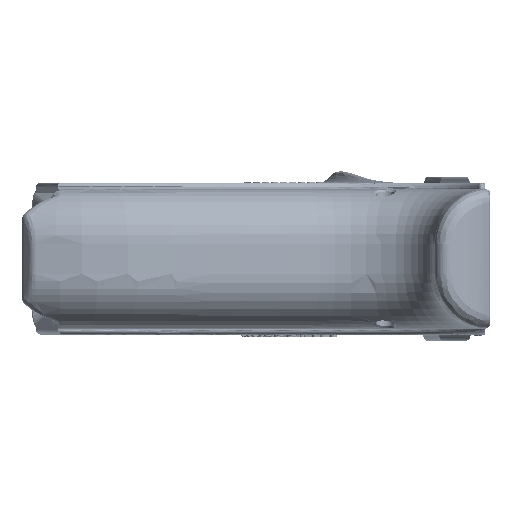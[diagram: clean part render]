
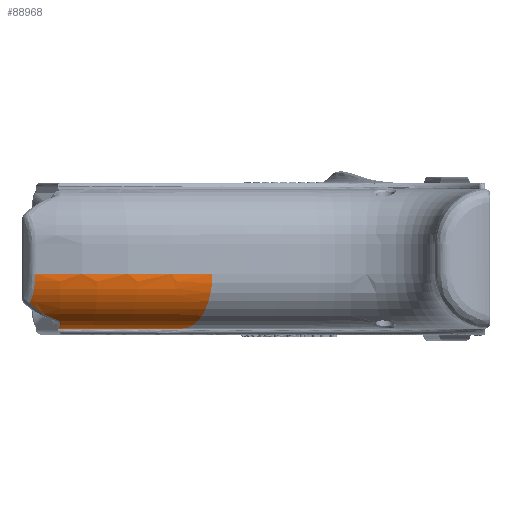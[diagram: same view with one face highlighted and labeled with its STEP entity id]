
A CAD part, left-side view. The second image highlights one B-rep face of the part: STEP entity #88968.
In plain terms, the highlighted toroidal (fillet/blend) face has major radius 35.645 mm and minor radius 9 mm.
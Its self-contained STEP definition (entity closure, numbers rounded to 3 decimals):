
#128=TOROIDAL_SURFACE('',#96641,35.645,9.);
#1682=ELLIPSE('',#96640,8.012,1.605);
#6449=CIRCLE('',#96061,44.645);
#6675=CIRCLE('',#96531,9.);
#6719=CIRCLE('',#96642,35.645);
#13895=FACE_OUTER_BOUND('',#20300,.T.);
#20300=EDGE_LOOP('',(#75057,#75058,#75059,#75060,#75061,#75062,#75063,#75064));
#34944=B_SPLINE_CURVE_WITH_KNOTS('',3,(#192211,#192212,#192213,#192214),
 .UNSPECIFIED.,.F.,.F.,(4,4),(0.,0.636),.UNSPECIFIED.);
#34945=B_SPLINE_CURVE_WITH_KNOTS('',3,(#192250,#192251,#192252,#192253,
#192254,#192255,#192256,#192257,#192258,#192259,#192260,#192261,#192262,
#192263,#192264,#192265,#192266,#192267,#192268,#192269,#192270,#192271),
 .UNSPECIFIED.,.F.,.F.,(4,2,2,2,2,2,2,2,2,2,4),(0.,0.191,0.25,
0.438,0.469,0.484,0.492,
0.5,0.575,0.813,1.),.UNSPECIFIED.);
#34947=B_SPLINE_CURVE_WITH_KNOTS('',3,(#192317,#192318,#192319,#192320,
#192321,#192322,#192323,#192324,#192325,#192326,#192327,#192328,#192329,
#192330,#192331,#192332,#192333,#192334,#192335,#192336),.UNSPECIFIED.,
 .F.,.F.,(4,2,2,2,2,2,2,2,2,4),(0.,0.214,0.426,0.5,
0.501,0.563,0.62,0.625,
0.889,1.),.UNSPECIFIED.);
#35014=B_SPLINE_CURVE_WITH_KNOTS('',3,(#195456,#195457,#195458,#195459,
#195460,#195461),.UNSPECIFIED.,.F.,.F.,(4,2,4),(1.133,1.17,
1.339),.UNSPECIFIED.);
#41469=VERTEX_POINT('',#185694);
#41479=VERTEX_POINT('',#186025);
#41539=VERTEX_POINT('',#186343);
#41801=VERTEX_POINT('',#191867);
#41809=VERTEX_POINT('',#192200);
#42034=VERTEX_POINT('',#193077);
#42148=VERTEX_POINT('',#195451);
#42149=VERTEX_POINT('',#195455);
#53405=EDGE_CURVE('',#41801,#41809,#34944,.T.);
#53406=EDGE_CURVE('',#41469,#41801,#34945,.T.);
#53408=EDGE_CURVE('',#41479,#41469,#34947,.T.);
#53410=EDGE_CURVE('',#41479,#41539,#6449,.T.);
#53658=EDGE_CURVE('',#42034,#41539,#6675,.T.);
#53859=EDGE_CURVE('',#41809,#42148,#1682,.T.);
#53860=EDGE_CURVE('',#42148,#42149,#35014,.T.);
#53861=EDGE_CURVE('',#42034,#42149,#6719,.T.);
#75057=ORIENTED_EDGE('',*,*,#53410,.F.);
#75058=ORIENTED_EDGE('',*,*,#53408,.T.);
#75059=ORIENTED_EDGE('',*,*,#53406,.T.);
#75060=ORIENTED_EDGE('',*,*,#53405,.T.);
#75061=ORIENTED_EDGE('',*,*,#53859,.T.);
#75062=ORIENTED_EDGE('',*,*,#53860,.T.);
#75063=ORIENTED_EDGE('',*,*,#53861,.F.);
#75064=ORIENTED_EDGE('',*,*,#53658,.T.);
#88968=ADVANCED_FACE('',(#13895),#128,.T.);
#96061=AXIS2_PLACEMENT_3D('',#192339,#113029,#113030);
#96531=AXIS2_PLACEMENT_3D('',#193078,#113990,#113991);
#96640=AXIS2_PLACEMENT_3D('',#195453,#114291,#114292);
#96641=AXIS2_PLACEMENT_3D('',#195454,#114293,#114294);
#96642=AXIS2_PLACEMENT_3D('',#195462,#114295,#114296);
#113029=DIRECTION('center_axis',(0.,0.,
1.));
#113030=DIRECTION('ref_axis',(0.,1.,0.));
#113990=DIRECTION('center_axis',(-0.547,0.837,0.));
#113991=DIRECTION('ref_axis',(-0.837,-0.547,0.));
#114291=DIRECTION('center_axis',(-0.903,-0.431,
0.));
#114292=DIRECTION('ref_axis',(0.43,-0.902,-0.042));
#114293=DIRECTION('center_axis',(0.,0.,
-1.));
#114294=DIRECTION('ref_axis',(-1.,0.,0.));
#114295=DIRECTION('center_axis',(0.,0.,
-1.));
#114296=DIRECTION('ref_axis',(0.,1.,0.));
#185694=CARTESIAN_POINT('',(-2.119,76.166,-7.364));
#186025=CARTESIAN_POINT('',(-3.56,75.263,-2.666));
#186343=CARTESIAN_POINT('',(3.443,46.089,-2.666));
#191867=CARTESIAN_POINT('',(0.722,71.155,-10.479));
#192200=CARTESIAN_POINT('',(3.015,71.38,-11.398));
#192211=CARTESIAN_POINT('Ctrl Pts',(0.722,71.155,
-10.479));
#192212=CARTESIAN_POINT('Ctrl Pts',(1.417,71.224,-10.876));
#192213=CARTESIAN_POINT('Ctrl Pts',(2.188,71.3,-11.193));
#192214=CARTESIAN_POINT('Ctrl Pts',(3.015,71.38,-11.398));
#192250=CARTESIAN_POINT('Ctrl Pts',(-2.119,76.166,
-7.364));
#192251=CARTESIAN_POINT('Ctrl Pts',(-1.976,75.916,-7.649));
#192252=CARTESIAN_POINT('Ctrl Pts',(-1.822,75.644,
-7.919));
#192253=CARTESIAN_POINT('Ctrl Pts',(-1.605,75.263,-8.254));
#192254=CARTESIAN_POINT('Ctrl Pts',(-1.553,75.17,
-8.332));
#192255=CARTESIAN_POINT('Ctrl Pts',(-1.33,74.778,
-8.651));
#192256=CARTESIAN_POINT('Ctrl Pts',(-1.151,74.462,
-8.878));
#192257=CARTESIAN_POINT('Ctrl Pts',(-0.931,74.074,
-9.125));
#192258=CARTESIAN_POINT('Ctrl Pts',(-0.899,74.018,
-9.16));
#192259=CARTESIAN_POINT('Ctrl Pts',(-0.851,73.934,
-9.212));
#192260=CARTESIAN_POINT('Ctrl Pts',(-0.835,73.905,
-9.23));
#192261=CARTESIAN_POINT('Ctrl Pts',(-0.811,73.863,
-9.255));
#192262=CARTESIAN_POINT('Ctrl Pts',(-0.803,73.849,
-9.264));
#192263=CARTESIAN_POINT('Ctrl Pts',(-0.786,73.82,
-9.281));
#192264=CARTESIAN_POINT('Ctrl Pts',(-0.777,73.804,
-9.29));
#192265=CARTESIAN_POINT('Ctrl Pts',(-0.702,73.671,
-9.369));
#192266=CARTESIAN_POINT('Ctrl Pts',(-0.632,73.548,
-9.438));
#192267=CARTESIAN_POINT('Ctrl Pts',(-0.337,73.027,
-9.722));
#192268=CARTESIAN_POINT('Ctrl Pts',(-0.103,72.614,
-9.918));
#192269=CARTESIAN_POINT('Ctrl Pts',(0.329,71.851,
-10.234));
#192270=CARTESIAN_POINT('Ctrl Pts',(0.523,71.507,
-10.362));
#192271=CARTESIAN_POINT('Ctrl Pts',(0.722,71.155,
-10.479));
#192317=CARTESIAN_POINT('Ctrl Pts',(-3.56,75.263,
-2.666));
#192318=CARTESIAN_POINT('Ctrl Pts',(-3.56,75.263,
-3.029));
#192319=CARTESIAN_POINT('Ctrl Pts',(-3.536,75.278,
-3.391));
#192320=CARTESIAN_POINT('Ctrl Pts',(-3.442,75.337,
-4.106));
#192321=CARTESIAN_POINT('Ctrl Pts',(-3.372,75.381,
-4.459));
#192322=CARTESIAN_POINT('Ctrl Pts',(-3.248,75.458,
-4.928));
#192323=CARTESIAN_POINT('Ctrl Pts',(-3.213,75.48,-5.049));
#192324=CARTESIAN_POINT('Ctrl Pts',(-3.175,75.504,
-5.172));
#192325=CARTESIAN_POINT('Ctrl Pts',(-3.174,75.505,
-5.174));
#192326=CARTESIAN_POINT('Ctrl Pts',(-3.143,75.525,
-5.275));
#192327=CARTESIAN_POINT('Ctrl Pts',(-3.11,75.546,
-5.373));
#192328=CARTESIAN_POINT('Ctrl Pts',(-3.042,75.588,
-5.563));
#192329=CARTESIAN_POINT('Ctrl Pts',(-3.01,75.608,
-5.648));
#192330=CARTESIAN_POINT('Ctrl Pts',(-2.973,75.631,
-5.742));
#192331=CARTESIAN_POINT('Ctrl Pts',(-2.97,75.633,
-5.749));
#192332=CARTESIAN_POINT('Ctrl Pts',(-2.809,75.734,
-6.154));
#192333=CARTESIAN_POINT('Ctrl Pts',(-2.622,75.852,
-6.538));
#192334=CARTESIAN_POINT('Ctrl Pts',(-2.315,76.044,
-7.063));
#192335=CARTESIAN_POINT('Ctrl Pts',(-2.219,76.104,
-7.215));
#192336=CARTESIAN_POINT('Ctrl Pts',(-2.119,76.166,
-7.364));
#192339=CARTESIAN_POINT('Origin',(40.829,70.49,-2.666));
#193077=CARTESIAN_POINT('',(10.979,51.008,-11.666));
#193078=CARTESIAN_POINT('Origin',(10.979,51.008,-2.666));
#195451=CARTESIAN_POINT('',(3.038,71.33,-11.405));
#195453=CARTESIAN_POINT('Origin',(4.179,68.938,-9.997));
#195454=CARTESIAN_POINT('Origin',(40.829,70.49,-2.666));
#195455=CARTESIAN_POINT('',(5.201,71.589,-11.666));
#195456=CARTESIAN_POINT('Ctrl Pts',(3.038,71.33,-11.405));
#195457=CARTESIAN_POINT('Ctrl Pts',(3.169,71.346,-11.437));
#195458=CARTESIAN_POINT('Ctrl Pts',(3.301,71.362,-11.466));
#195459=CARTESIAN_POINT('Ctrl Pts',(4.032,71.449,-11.611));
#195460=CARTESIAN_POINT('Ctrl Pts',(4.642,71.522,-11.666));
#195461=CARTESIAN_POINT('Ctrl Pts',(5.201,71.589,-11.666));
#195462=CARTESIAN_POINT('Origin',(40.829,70.49,-11.666));
